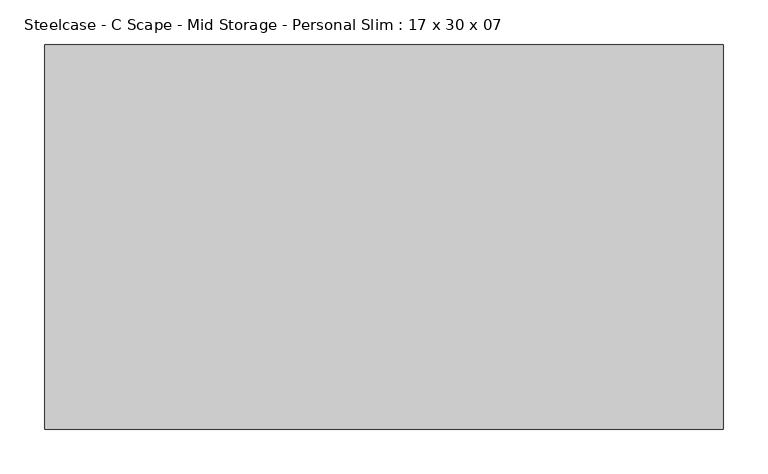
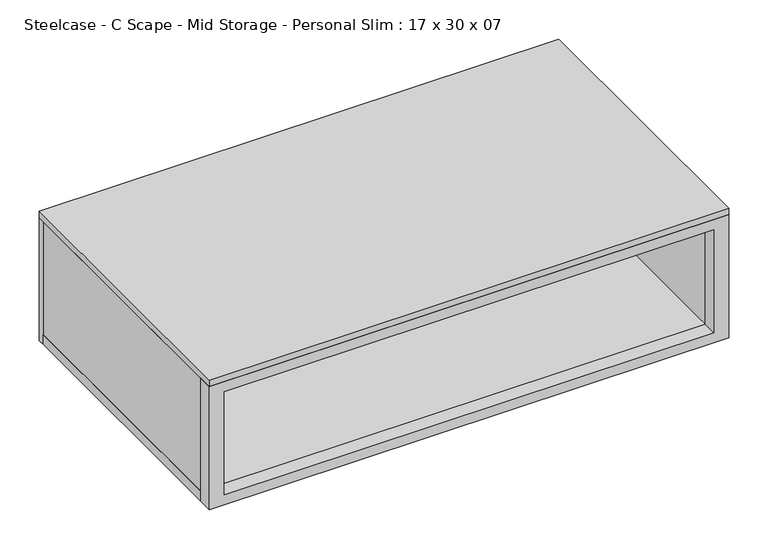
"""IFC4 building model written with IfcOpenShell, lengths in millimetres: furniture geometry, Steelcase - C Scape - Mid Storage - Personal Slim : 17 x 30 x 07."""

from ifc_helpers import new_model, si_unit, frame, origin, place, context, project, spatial, polyline, outline, extrude, source, transform, mapped, element, save


def steelcase_c_scape_mid_storage_personal_slim_17_x_30_x_07_9eceac21(model_context):
    return source(origin(), model_context, "Body", "SweptSolid", [
        extrude(outline(polyline([(1028.7, 762.0), (1028.7, 0.0), (838.2, 0.0), (838.2, 762.0), (1028.7, 762.0)]), holes=[polyline([(853.4399855, 21.9711633), (1013.46, 21.9711633), (1013.46, 739.902), (853.4399855, 739.902), (853.4399855, 21.9711633)])]), frame((0.0, -215.9, 0.0), z_axis=(0.0, 1.0, 0.0), x_axis=(0.0, 0.0, 1.0)), (0.0, 0.0, 1.0), 21.4627892),
        extrude(outline(polyline([(762.0, 206.3755809), (762.0, -194.4372108), (0.0, -194.4372108), (0.0, 206.3755809), (762.0, 206.3755809)])), frame((0.0, 0.0, 838.2), z_axis=(0.0, 0.0, 1.0), x_axis=(1.0, 0.0, 0.0)), (0.0, 0.0, 1.0), 15.2399855),
        extrude(outline(polyline([(762.0, 215.9), (762.0, -215.9), (0.0, -215.9), (0.0, 215.9), (762.0, 215.9)])), frame((0.0, 0.0, 1028.7), z_axis=(0.0, 0.0, 1.0), x_axis=(1.0, 0.0, 0.0)), (0.0, 0.0, 1.0), 10.1599903),
        extrude(outline(polyline([(762.0, 215.9), (762.0, 206.3755809), (0.0, 206.3755809), (0.0, 215.9), (762.0, 215.9)])), frame((0.0, 0.0, 838.2), z_axis=(0.0, 0.0, 1.0), x_axis=(1.0, 0.0, 0.0)), (0.0, 0.0, 1.0), 190.5),
        extrude(outline(polyline([(21.9711633, 206.3755809), (21.9711633, -194.4372108), (0.0, -194.4372108), (0.0, 206.3755809), (21.9711633, 206.3755809)])), frame((0.0, 0.0, 853.4399855), z_axis=(0.0, 0.0, 1.0), x_axis=(1.0, 0.0, 0.0)), (0.0, 0.0, 1.0), 175.2600145),
        extrude(outline(polyline([(739.902, 206.3755809), (762.0, 206.3755809), (762.0, -194.4372108), (739.902, -194.4372108), (739.902, 206.3755809)])), frame((0.0, 0.0, 853.4399855), z_axis=(0.0, 0.0, 1.0), x_axis=(1.0, 0.0, 0.0)), (0.0, 0.0, 1.0), 175.2600145),
    ])


if __name__ == "__main__":
    model = new_model("IFC4")
    model_context = context("Model", 3, world=origin())
    ifc_project = project(units=[si_unit("LENGTHUNIT", "METRE", prefix="MILLI")], contexts=[model_context])
    site = spatial("IfcSite", under=ifc_project)
    building = spatial("IfcBuilding", under=site)
    placement = place(None, origin())
    steelcase_c_scape_mid_storage_personal_slim_17_x_30_x_07_shape = steelcase_c_scape_mid_storage_personal_slim_17_x_30_x_07_9eceac21(model_context)
    element("IfcFurniture", 1, ObjectType="Steelcase - C Scape - Mid Storage - Personal Slim : 17 x 30 x 07", at=placement, inside=building, context=model_context, shape_type="MappedRepresentation", body=[
        mapped(steelcase_c_scape_mid_storage_personal_slim_17_x_30_x_07_shape, transform((0.0, 0.0, 0.0), x_axis=(1.0, 0.0, 0.0), y_axis=(0.0, 1.0, 0.0), z_axis=(0.0, 0.0, 1.0))),
    ])
    save(model, "model.ifc")
